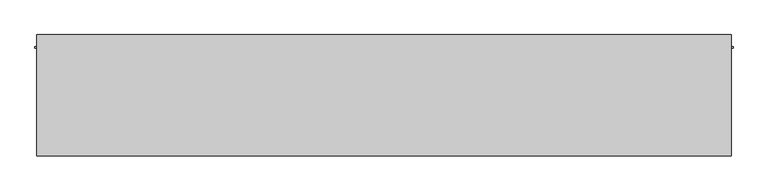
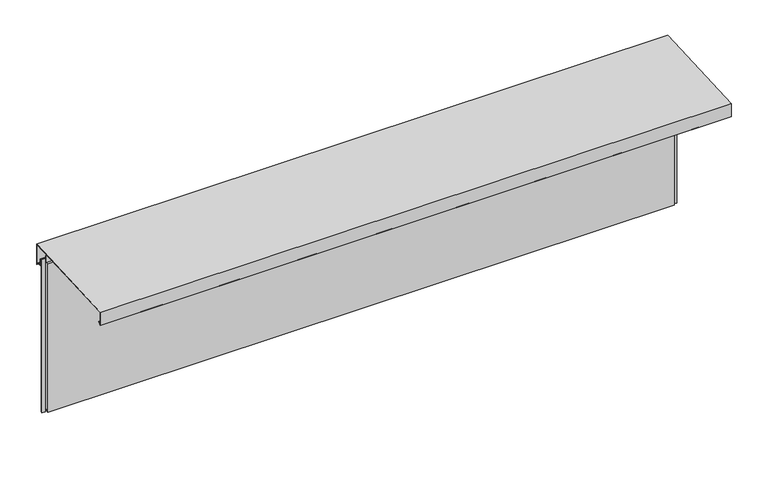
"""IFC4 building model written with IfcOpenShell, lengths in millimetres: plate geometry, Trimo_Qbiss Screen_Normal Panel-HORIZONTAL : HR - B."""

from ifc_helpers import new_model, si_unit, frame, origin, place, context, project, spatial, polyline, outline, extrude, source, transform, mapped, element, save


def plate_fdcfd50b(model_context):
    return source(origin(), model_context, "Body", "SweptSolid", [
        extrude(outline(polyline([(101.0, 868.0), (77.0, 868.0), (77.0, 868.8), (101.8, 868.8), (101.8, 831.8), (125.3313708, 831.8), (133.2, 823.9313708), (133.2, 822.8), (125.0, 831.0), (101.0, 831.0), (101.0, 868.0)])), frame((-1732.1, 0.0, 0.0), z_axis=(1.0, 0.0, 0.0), x_axis=(0.0, 1.0, 0.0)), (0.0, 0.0, 1.0), 3464.2),
        extrude(outline(polyline([(134.2, 818.9715729), (134.2, 934.1569759), (-469.2, 905.4165497), (-469.2, 833.1070922), (-457.6367532, 844.670339), (-457.0710678, 844.1046536), (-470.0, 831.1757214), (-470.0, 906.1757214), (135.0, 935.0), (135.0, 817.040202), (123.020101, 829.020101), (123.5857864, 829.5857864), (134.2, 818.9715729)])), frame((-1732.1, 0.0, 0.0), z_axis=(1.0, 0.0, 0.0), x_axis=(0.0, 1.0, 0.0)), (0.0, 0.0, 1.0), 3464.2),
        extrude(outline(polyline([(-1722.6, 76.5978162), (-1722.6, 67.8978162), (-1741.6, 67.8978162), (-1741.6, 76.5978162), (-1722.6, 76.5978162)])), frame((0.0, 0.0, -1.0), z_axis=(0.0, 0.0, 1.0), x_axis=(1.0, 0.0, 0.0)), (0.0, 0.0, 1.0), 890.0),
        extrude(outline(polyline([(1722.6, 67.8978162), (1722.6, 76.5978162), (1741.6, 76.5978162), (1741.6, 67.8978162), (1722.6, 67.8978162)])), frame((0.0, 0.0, -1.0), z_axis=(0.0, 0.0, 1.0), x_axis=(1.0, 0.0, 0.0)), (0.0, 0.0, 1.0), 890.0),
        extrude(outline(polyline([(1719.6, 76.0), (1719.6, 71.0), (-1719.6, 71.0), (-1719.6, 76.0), (1719.6, 76.0)])), frame((0.0, 0.0, 868.0), z_axis=(0.0, 0.0, 1.0), x_axis=(1.0, 0.0, 0.0)), (0.0, 0.0, 1.0), 21.0),
        extrude(outline(polyline([(71.0, 867.0), (100.0, 867.0), (100.0, 0.0), (72.0, 0.0), (72.0, 15.5), (62.0, 15.5), (62.0, 7.0), (50.0, 7.0), (50.0, 867.0), (63.0, 867.0), (63.0, 904.5), (71.0, 904.5), (71.0, 867.0)])), frame((-1719.6, 0.0, 0.0), z_axis=(1.0, 0.0, 0.0), x_axis=(0.0, 1.0, 0.0)), (0.0, 0.0, 1.0), 3439.2),
    ])


if __name__ == "__main__":
    model = new_model("IFC4")
    model_context = context("Model", 3, world=origin())
    ifc_project = project(units=[si_unit("LENGTHUNIT", "METRE", prefix="MILLI")], contexts=[model_context])
    site = spatial("IfcSite", under=ifc_project)
    building = spatial("IfcBuilding", under=site)
    placement = place(None, origin())
    plate_shape = plate_fdcfd50b(model_context)
    element("IfcPlate", 1, ObjectType="Trimo_Qbiss Screen_Normal Panel-HORIZONTAL : HR - B", at=placement, inside=building, context=model_context, shape_type="MappedRepresentation", body=[
        mapped(plate_shape, transform((0.0, 0.0, 0.0), x_axis=(1.0, 0.0, 0.0), y_axis=(0.0, 1.0, 0.0), z_axis=(0.0, 0.0, 1.0))),
    ])
    save(model, "model.ifc")
